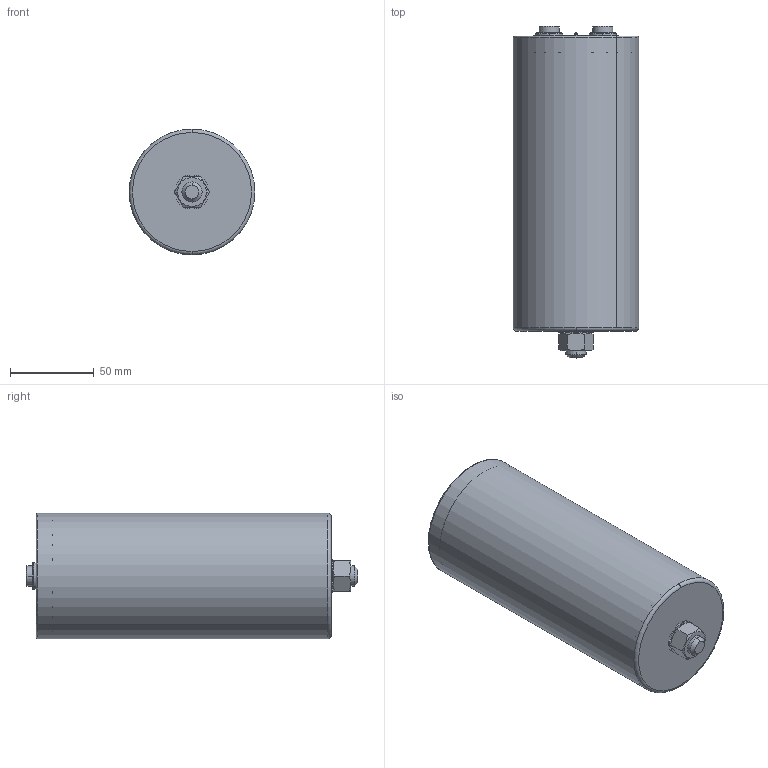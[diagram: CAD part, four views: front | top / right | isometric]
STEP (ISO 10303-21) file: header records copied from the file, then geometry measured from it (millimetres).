
FILE_DESCRIPTION (( 'STEP AP203' ), '1' );
FILE_NAME ('B25690Ax_75x176_182.STEP', '2021-08-30T07:24:50', ( '' ), ( '' ), 'SwSTEP 2.0', 'SolidWorks 2017', '' );
FILE_SCHEMA (( 'CONFIG_CONTROL_DESIGN' ));
Length unit declared in the file: millimetre
Products named in the file (1): B25690Ax_75x176_182
Bounding box: 75 x 198 x 75 mm (x, y, z)
Volume: 86954.4 mm3; surface area: 109763.2 mm2
Topology: 1 solids, 3 shells, 263 faces, 675 edges, 432 vertices
Faces by surface type: plane 145, cylinder 80, cone 28, torus 10
Entity records: 8308 total; most frequent: CARTESIAN_POINT 1807, DIRECTION 1389, ORIENTED_EDGE 1350, EDGE_CURVE 675, AXIS2_PLACEMENT_3D 534, VERTEX_POINT 432, LINE 321, VECTOR 321
